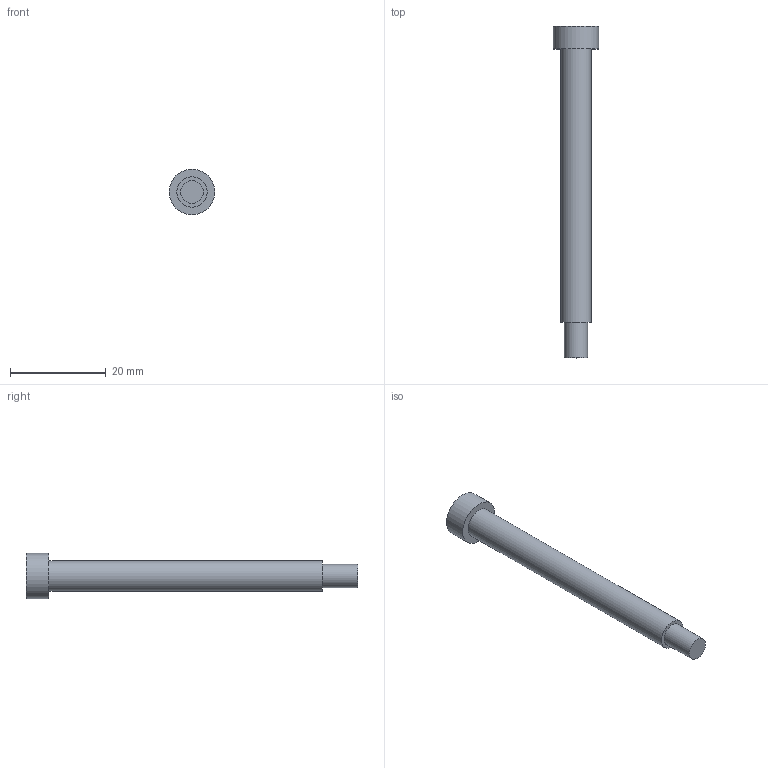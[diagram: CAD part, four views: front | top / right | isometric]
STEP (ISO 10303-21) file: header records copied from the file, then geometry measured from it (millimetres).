
FILE_DESCRIPTION(('Open CASCADE Model'),'2;1');
FILE_NAME('Open CASCADE Shape Model','2026-10-18T02:27:58',('Author'),( 'Open CASCADE'),'Open CASCADE STEP processor 7.9','Open CASCADE 7.9' ,'Unknown');
FILE_SCHEMA(('AUTOMOTIVE_DESIGN { 1 0 10303 214 1 1 1 1 }'));
Length unit declared in the file: millimetre
Products named in the file (1): Open CASCADE STEP translator 7.9 6
Bounding box: 9.52 x 69.38 x 9.52 mm (x, y, z)
Volume: 2287.4 mm3; surface area: 1538.6 mm2
Topology: 1 solids, 1 shells, 7 faces, 9 edges, 6 vertices
Faces by surface type: plane 4, cylinder 3
Full cylindrical faces by diameter (mm): 4.826 x1, 6.35 x1, 9.52 x1
Entity records: 276 total; most frequent: DIRECTION 49, CARTESIAN_POINT 41, ORIENTED_EDGE 18, PCURVE 18, DEFINITIONAL_REPRESENTATION 18, LINE 15, VECTOR 15, AXIS2_PLACEMENT_3D 14
